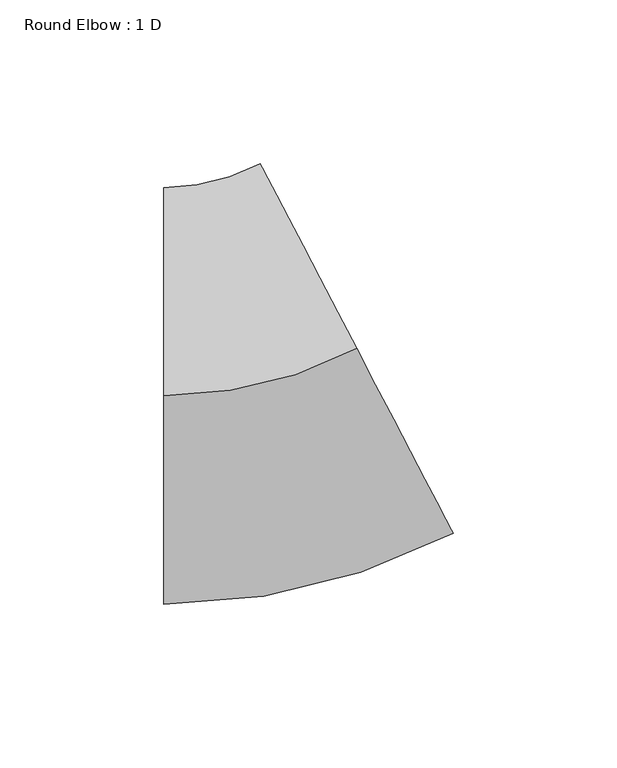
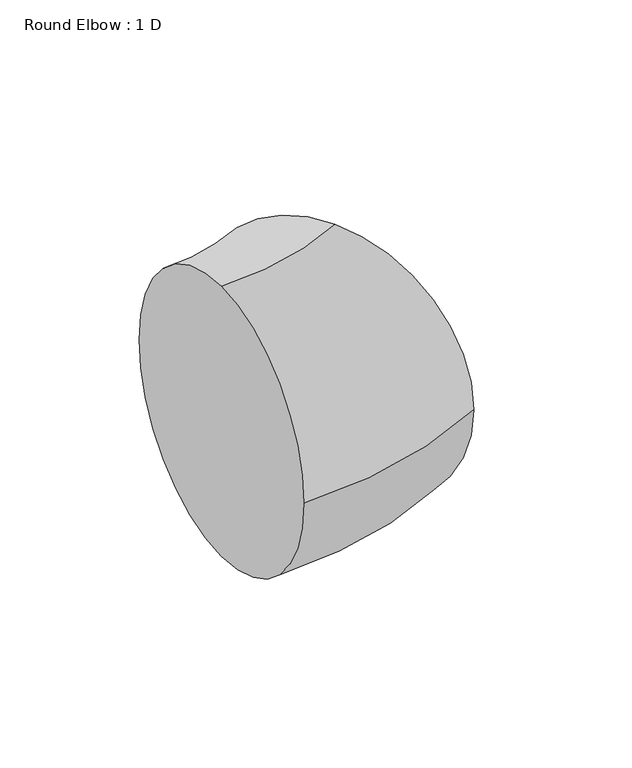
"""IFC4 building model written with IfcOpenShell, lengths in millimetres: duct fitting geometry, Round Elbow : 1 D."""

from ifc_helpers import new_model, si_unit, point, frame, origin, place, context, project, spatial, circle_curve, ellipse_curve, trimmed, source, transform, mapped, element, save
from ifc_brep_helpers import plane_surface, revolved_surface, advanced_brep


def round_elbow_1_d_fb0a9a06(model_context):
    return source(origin(), model_context, "Body", "AdvancedBrep", [
        advanced_brep(
        [(-31.1590741, 0.0, 63.5), (-31.1590741, 63.5, 0.0), (-31.1590741, 0.0, -63.5), (-31.1590741, -63.5, 0.0), (27.620809, 14.4214704, 63.5), (57.0107506, -41.8677945, 0.0), (27.620809, 14.4214704, -63.5), (-1.7691325, 70.7107352, 0.0)],
        [
            (0, 1, circle_curve(frame((-31.1590741, 0.0, 0.0), z_axis=(-1.0, 0.0, 0.0), x_axis=(0.0, 1.0, 0.0)), 63.5)),
            (1, 2, circle_curve(frame((-31.1590741, 0.0, 0.0), z_axis=(-1.0, 0.0, 0.0), x_axis=(0.0, 1.0, 0.0)), 63.5)),
            (2, 3, circle_curve(frame((-31.1590741, 0.0, 0.0), z_axis=(-1.0, 0.0, 0.0), x_axis=(0.0, 1.0, 0.0)), 63.5)),
            (3, 0, circle_curve(frame((-31.1590741, 0.0, 0.0), z_axis=(-1.0, 0.0, 0.0), x_axis=(0.0, 1.0, 0.0)), 63.5)),
            (4, 5, circle_curve(frame((27.620809, 14.4214704, 0.0), z_axis=(0.8864451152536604, 0.4628337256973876, 0.0), x_axis=(-0.4628337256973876, 0.8864451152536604, 0.0)), 63.5)),
            (5, 6, circle_curve(frame((27.620809, 14.4214704, 0.0), z_axis=(0.8864451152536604, 0.4628337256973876, 0.0), x_axis=(-0.4628337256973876, 0.8864451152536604, 0.0)), 63.5)),
            (6, 7, circle_curve(frame((27.620809, 14.4214704, 0.0), z_axis=(0.8864451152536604, 0.4628337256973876, 0.0), x_axis=(-0.4628337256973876, 0.8864451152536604, 0.0)), 63.5)),
            (7, 4, circle_curve(frame((27.620809, 14.4214704, 0.0), z_axis=(0.8864451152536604, 0.4628337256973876, 0.0), x_axis=(-0.4628337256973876, 0.8864451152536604, 0.0)), 63.5)),
            (7, 1, circle_curve(frame((-31.1590741, 127.0, 0.0), z_axis=(0.0, 0.0, -1.0), x_axis=(0.0, -1.0, 0.0)), 63.5)),
            (0, 4, circle_curve(frame((-31.1590741, 127.0, 63.5), z_axis=(0.0, 0.0, 1.0), x_axis=(0.0, -1.0, 0.0)), 127.0)),
            (6, 2, circle_curve(frame((-31.1590741, 127.0, -63.5), z_axis=(0.0, 0.0, -1.0), x_axis=(0.0, -1.0, 0.0)), 127.0)),
            (5, 3, circle_curve(frame((-31.1590741, 127.0, 0.0), z_axis=(0.0, 0.0, -1.0), x_axis=(0.0, -1.0, 0.0)), 190.5)),
        ],
        [
            plane_surface(frame((-31.1590741, 0.0, 0.0), z_axis=(-1.0, 0.0, 0.0), x_axis=(0.0, 0.0, 1.0))),
            plane_surface(frame((27.620809, 14.4214704, 0.0), z_axis=(0.8864451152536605, 0.4628337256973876, 0.0), x_axis=(0.0, 0.0, 1.0))),
            revolved_surface(trimmed(ellipse_curve(frame((-31.1590741, 0.0, 0.0), z_axis=(-1.0, 0.0, 0.0), x_axis=(0.0, 1.0, 0.0)), 63.5, 63.5), [point((-31.1590741, 0.0, 63.5))], [point((-31.1590741, 63.5, 0.0))], True, "CARTESIAN"), (-31.1590741, 127.0, 0.0), (0.0, 0.0, 1.0)),
            revolved_surface(trimmed(ellipse_curve(frame((-31.1590741, 0.0, 0.0), z_axis=(-1.0, 0.0, 0.0), x_axis=(0.0, 1.0, 0.0)), 63.5, 63.5), [point((-31.1590741, 63.5, 0.0))], [point((-31.1590741, 0.0, -63.5))], True, "CARTESIAN"), (-31.1590741, 127.0, 0.0), (0.0, 0.0, 1.0)),
            revolved_surface(trimmed(ellipse_curve(frame((-31.1590741, 0.0, 0.0), z_axis=(-1.0, 0.0, 0.0), x_axis=(0.0, 1.0, 0.0)), 63.5, 63.5), [point((-31.1590741, 0.0, -63.5))], [point((-31.1590741, -63.5, 0.0))], True, "CARTESIAN"), (-31.1590741, 127.0, 0.0), (0.0, 0.0, 1.0)),
            revolved_surface(trimmed(ellipse_curve(frame((-31.1590741, 0.0, 0.0), z_axis=(-1.0, 0.0, 0.0), x_axis=(0.0, 1.0, 0.0)), 63.5, 63.5), [point((-31.1590741, -63.5, 0.0))], [point((-31.1590741, 0.0, 63.5))], True, "CARTESIAN"), (-31.1590741, 127.0, 0.0), (0.0, 0.0, 1.0)),
        ],
        [
            (0, [[1, 2, 3, 4]]),
            (1, [[5, 6, 7, 8]]),
            (2, [[9, -1, 10, -8]]),
            (3, [[11, -2, -9, -7]]),
            (4, [[12, -3, -11, -6]]),
            (5, [[-10, -4, -12, -5]]),
        ],
    ),
    ])


if __name__ == "__main__":
    model = new_model("IFC4")
    model_context = context("Model", 3, world=origin())
    ifc_project = project(units=[si_unit("LENGTHUNIT", "METRE", prefix="MILLI")], contexts=[model_context])
    site = spatial("IfcSite", under=ifc_project)
    building = spatial("IfcBuilding", under=site)
    placement = place(None, origin())
    round_elbow_1_d_shape = round_elbow_1_d_fb0a9a06(model_context)
    element("IfcDuctFitting", 1, ObjectType="Round Elbow : 1 D", at=placement, inside=building, context=model_context, shape_type="MappedRepresentation", body=[
        mapped(round_elbow_1_d_shape, transform((0.0, 0.0, 0.0), x_axis=(1.0, 0.0, 0.0), y_axis=(0.0, 1.0, 0.0), z_axis=(0.0, 0.0, 1.0))),
    ])
    save(model, "model.ifc")
